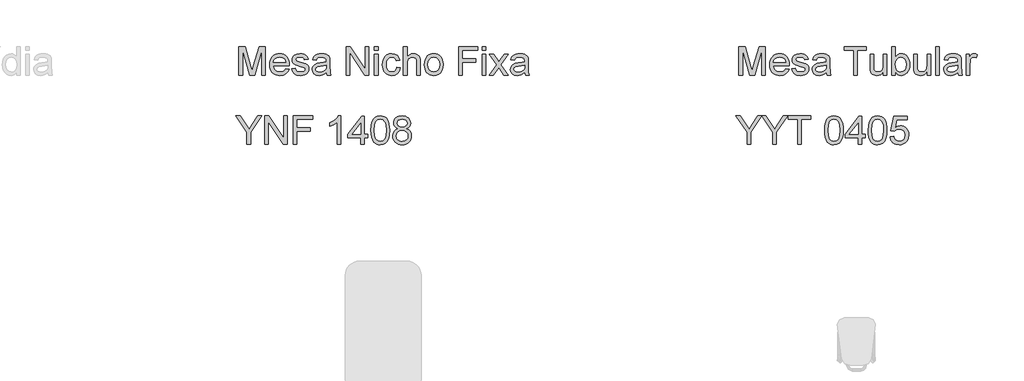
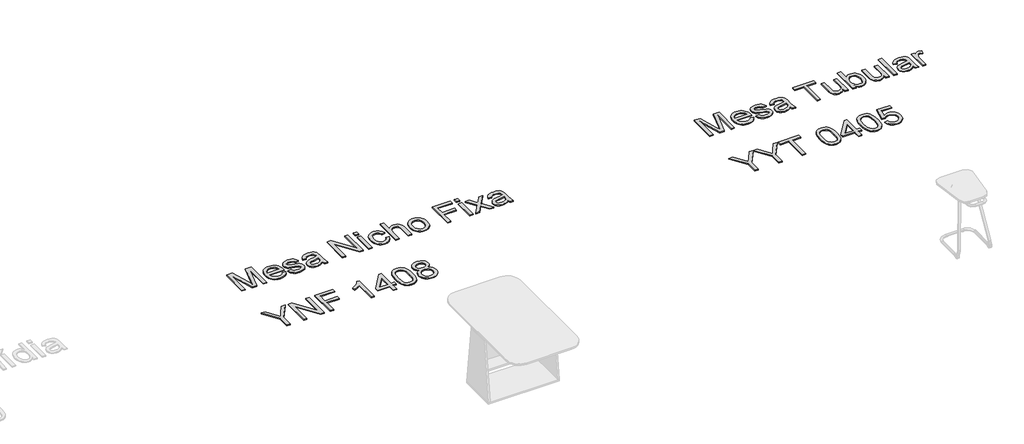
# One storey, part 24 of 26: 2 proxies.
"""IFC4 building model written with IfcOpenShell, lengths in millimetres."""

from ifc_helpers import new_model, si_unit, origin, origin_with_axes, place, context, project, spatial, polyline, outline, extrude, element, save

model = new_model("IFC4")

# Units and contexts
model_context = context("Model", 3, world=origin())
ifc_project = project(units=[si_unit("LENGTHUNIT", "METRE", prefix="MILLI")], contexts=[model_context])

# Site, building, storey
site = spatial("IfcSite", under=ifc_project)
building = spatial("IfcBuilding", under=site)
storey = spatial("IfcBuildingStorey", under=building, Name="Marelli - Linha YOUNG - Planta Baixa", Elevation=0.0)

# Proxies
placement = place(None, origin())
element("IfcBuildingElementProxy", 1, Name="300mm Arial", ObjectType="300mm Arial", at=placement, inside=storey, context=model_context, shape_type="SweptSolid", body=[
    extrude(outline(polyline([(4661.1208213, 12585.3581335), (4661.1208213, 12886.7270639), (4725.9416288, 12886.7270639), (4787.5986512, 12674.3119999), (4800.0330626, 12629.9454313), (4813.4975437, 12677.9908199), (4874.1244965, 12886.7270639), (4938.945304, 12886.7270639), (4938.945304, 12585.3581335), (4901.2741877, 12585.3581335), (4901.2741877, 12849.0559476), (4825.5640731, 12585.3581335), (4774.5020522, 12585.3581335), (4698.7919376, 12849.0559476), (4698.7919376, 12585.3581335), (4661.1208213, 12585.3581335)])), origin_with_axes(), (0.0, 0.0, 1.0), 10.0),
    extrude(outline(polyline([(5155.1127644, 12651.282587), (5192.0481167, 12646.5736975), (5178.7399855, 12618.7434245), (5157.5039974, 12597.9396977), (5128.8183988, 12584.9718574), (5093.1614364, 12580.6492439), (5069.7871341, 12582.5139458), (5048.9604147, 12588.1080514), (5030.681278, 12597.4315607), (5014.9497242, 12610.4844737), (5002.2991821, 12626.903507), (4993.2630806, 12646.3253771), (4987.8414197, 12668.750084), (4986.0341994, 12694.1776276), (4987.8598138, 12720.4673947), (4993.336657, 12743.6393619), (5002.464729, 12763.6935292), (5015.2440298, 12780.6298965), (5030.9341969, 12794.0851805), (5048.7948678, 12803.6960976), (5068.8260424, 12809.4626479), (5091.0277208, 12811.3848313), (5112.5143286, 12809.4672464), (5131.9453957, 12803.7144917), (5149.3209222, 12794.1265672), (5164.6409081, 12780.7034729), (5177.1465966, 12763.8038938), (5186.0792313, 12743.7865147), (5191.4388121, 12720.6513357), (5193.2253391, 12694.3983568), (5193.0046099, 12684.2448138), (5023.7053157, 12684.2448138), (5030.2260241, 12656.0466588), (5045.3735652, 12635.3165084), (5067.2349528, 12622.5693973), (5093.8972004, 12618.3203602), (5113.9467691, 12620.2885289), (5130.8325527, 12626.1930349), (5144.5545511, 12636.4017603), (5155.1127644, 12651.282587)]), holes=[polyline([(5023.7053157, 12721.9159301), (5155.5542228, 12721.9159301), (5150.4590571, 12741.818346), (5140.471061, 12756.0553792), (5118.5085059, 12769.2991311), (5090.880568, 12773.713715), (5065.4875133, 12770.1912449), (5044.4906484, 12759.6238346), (5029.8949303, 12743.1519182), (5023.7053157, 12721.9159301)])]), origin_with_axes(), (0.0, 0.0, 1.0), 10.0),
    extrude(outline(polyline([(5216.7697868, 12651.282587), (5254.4409031, 12655.9914765), (5260.3821973, 12639.8782452), (5271.8785097, 12628.0324449), (5289.0034165, 12620.7483814), (5311.8304943, 12618.3203602), (5334.3816606, 12620.5460463), (5350.2373746, 12627.2231045), (5359.6183655, 12636.898401), (5362.7453625, 12648.1188018), (5359.5999714, 12657.7205219), (5350.1637982, 12665.0413736), (5311.3890359, 12675.7835279), (5254.6616323, 12694.2144158), (5240.3050374, 12703.4758451), (5229.903174, 12715.7355126), (5223.5848007, 12730.2116691), (5221.4786763, 12746.1225654), (5223.1709335, 12760.7182835), (5228.247705, 12774.1919616), (5236.2491384, 12786.0101707), (5246.7153812, 12795.6394819), (5270.6644991, 12806.7863064), (5303.0749028, 12811.3848313), (5327.5942378, 12809.5362243), (5348.9129994, 12803.9904032), (5366.0563004, 12795.289994), (5378.0492535, 12783.9776227), (5385.9955046, 12769.2163576), (5390.9986997, 12750.1692673), (5353.3275834, 12745.4603778), (5348.5727086, 12757.3153751), (5339.1641266, 12766.2457105), (5325.0098668, 12771.8467139), (5306.0179588, 12773.713715), (5284.3864975, 12771.9294873), (5269.9655233, 12766.5768043), (5261.8537253, 12758.8512824), (5259.1497926, 12749.9485381), (5263.637953, 12738.9856547), (5277.6910452, 12730.6715216), (5310.1382372, 12722.6516941), (5365.430901, 12704.9197819), (5380.0358162, 12696.4401019), (5391.1090643, 12684.833425), (5398.0896252, 12670.0629629), (5400.4164788, 12652.0919274), (5397.684955, 12633.5138866), (5389.4903835, 12616.0394919), (5376.1454641, 12601.0391035), (5357.9628965, 12589.883082), (5336.0003414, 12582.9577034), (5311.3154595, 12580.6492439), (5273.3316435, 12585.1006161), (5245.6117352, 12598.4547325), (5227.1072708, 12620.5644404), (5216.7697868, 12651.282587)])), origin_with_axes(), (0.0, 0.0, 1.0), 10.0),
    extrude(outline(polyline([(5584.0631708, 12613.6114707), (5566.0645442, 12598.178821), (5547.5324886, 12588.0804602), (5528.0439399, 12582.507048), (5507.1758338, 12580.6492439), (5475.694332, 12585.1190102), (5452.4717811, 12598.5283089), (5438.1519744, 12618.8905773), (5433.3787055, 12644.2192527), (5435.1813273, 12659.8358434), (5440.5891926, 12674.0176943), (5448.9309169, 12686.1578001), (5459.5351154, 12695.6491556), (5485.9122545, 12708.0099907), (5518.5065992, 12713.6753734), (5557.0238441, 12719.6350617), (5583.8424416, 12726.6248196), (5584.0631708, 12735.0125291), (5581.4696027, 12751.8247363), (5573.6888985, 12762.8244079), (5556.2880801, 12770.9913882), (5532.0446566, 12773.713715), (5509.6038549, 12771.9018962), (5493.9320819, 12766.4664397), (5483.24511, 12756.4140642), (5475.7587114, 12740.7514882), (5438.0875951, 12745.4603778), (5444.6266975, 12766.0617695), (5454.3847675, 12782.2485773), (5468.2723128, 12794.6278064), (5487.1998414, 12803.8064622), (5510.348816, 12809.490239), (5536.900699, 12811.3848313), (5562.3673301, 12809.7109682), (5582.5548546, 12804.689379), (5597.7759721, 12797.138601), (5608.3433824, 12787.8771718), (5615.3515345, 12776.4268447), (5619.8948771, 12762.3093731), (5621.7342871, 12729.3471464), (5621.7342871, 12682.4789802), (5623.6472734, 12617.0327733), (5631.1520661, 12585.3581335), (5593.4809498, 12585.3581335), (5584.0631708, 12613.6114707)]), holes=[polyline([(5584.0631708, 12688.9537033), (5523.2890652, 12677.4022087), (5490.8786614, 12671.2953675), (5476.2001698, 12661.3625537), (5471.0498218, 12646.8680031), (5473.8549221, 12635.6659963), (5482.2702227, 12626.4873405), (5496.1117828, 12620.3621053), (5515.1956613, 12618.3203602), (5535.429171, 12620.5736375), (5553.308236, 12627.3334691), (5567.8027866, 12637.2938741), (5577.8827532, 12649.1488714), (5582.3525195, 12661.3625537), (5583.8424416, 12678.2851254), (5584.0631708, 12688.9537033)])]), origin_with_axes(), (0.0, 0.0, 1.0), 10.0),
    extrude(outline(polyline([(5871.3054326, 12585.3581335), (5871.3054326, 12849.0559476), (5772.4187523, 12849.0559476), (5772.4187523, 12886.7270639), (6007.8632292, 12886.7270639), (6007.8632292, 12849.0559476), (5908.9765489, 12849.0559476), (5908.9765489, 12585.3581335), (5871.3054326, 12585.3581335)])), origin_with_axes(), (0.0, 0.0, 1.0), 10.0),
    extrude(outline(polyline([(6186.8010317, 12585.3581335), (6186.8010317, 12623.3971318), (6173.1710037, 12604.6949308), (6157.2968956, 12591.3362159), (6139.1787074, 12583.3209869), (6118.816439, 12580.6492439), (6100.4683244, 12582.5254421), (6083.3894028, 12588.1540366), (6069.0603991, 12596.6153225), (6058.9620383, 12606.9895948), (6047.7416375, 12634.7278972), (6045.5343455, 12669.7502632), (6045.5343455, 12806.6759418), (6083.2054618, 12806.6759418), (6083.2054618, 12687.4821753), (6085.4863302, 12649.075295), (6090.976969, 12636.2638046), (6100.385551, 12626.5241287), (6113.0866769, 12620.3713024), (6128.4549472, 12618.3203602), (6144.7061344, 12620.4172876), (6159.9088578, 12626.7080697), (6172.4444368, 12636.6132924), (6180.6941905, 12649.5535416), (6185.2743214, 12667.2762567), (6186.8010317, 12691.5288773), (6186.8010317, 12806.6759418), (6224.472148, 12806.6759418), (6224.472148, 12585.3581335), (6186.8010317, 12585.3581335)])), origin_with_axes(), (0.0, 0.0, 1.0), 10.0),
    extrude(outline(polyline([(6313.9410492, 12585.3581335), (6276.2699329, 12585.3581335), (6276.2699329, 12886.7270639), (6313.9410492, 12886.7270639), (6313.9410492, 12774.9645138), (6326.3294754, 12790.8984027), (6340.3181882, 12802.2797519), (6355.9071878, 12809.1085615), (6373.096474, 12811.3848313), (6392.5022493, 12809.3338892), (6410.8411667, 12803.1810628), (6427.0647627, 12793.3126283), (6440.1245735, 12780.1148617), (6450.3608901, 12763.7165218), (6458.1140031, 12744.2463672), (6462.9976366, 12722.5137383), (6464.6255144, 12699.3279756), (6462.940155, 12672.5737575), (6457.8840769, 12649.0385068), (6449.4572799, 12628.7222236), (6437.6597642, 12611.6249079), (6423.4986066, 12598.0730549), (6407.9808842, 12588.3931599), (6391.1065969, 12582.5852229), (6372.8757448, 12580.6492439), (6355.12084, 12583.146243), (6339.3800892, 12590.6372401), (6325.6534922, 12603.1222353), (6313.9410492, 12620.6012286), (6313.9410492, 12585.3581335)]), holes=[polyline([(6313.9410492, 12697.562142), (6316.5162232, 12666.1450196), (6324.2417451, 12644.8814403), (6333.3698171, 12633.2609678), (6343.9786141, 12624.9606302), (6356.0681362, 12619.9804277), (6369.6383833, 12618.3203602), (6391.3802092, 12623.2131908), (6409.9582499, 12637.8916824), (6422.7053611, 12662.2638646), (6426.9543981, 12696.2377668), (6422.880105, 12730.7083098), (6410.6572257, 12754.8045804), (6392.6585991, 12768.9864314), (6371.257064, 12773.713715), (6349.5152381, 12768.8208845), (6330.9371974, 12754.1423929), (6318.1900862, 12730.2116691), (6313.9410492, 12697.562142)])]), origin_with_axes(), (0.0, 0.0, 1.0), 10.0),
    extrude(outline(polyline([(6648.2722064, 12585.3581335), (6648.2722064, 12623.3971318), (6634.6421785, 12604.6949308), (6618.7680704, 12591.3362159), (6600.6498821, 12583.3209869), (6580.2876137, 12580.6492439), (6561.9394992, 12582.5254421), (6544.8605776, 12588.1540366), (6530.5315739, 12596.6153225), (6520.4332131, 12606.9895948), (6509.2128122, 12634.7278972), (6507.0055203, 12669.7502632), (6507.0055203, 12806.6759418), (6544.6766366, 12806.6759418), (6544.6766366, 12687.4821753), (6546.9575049, 12649.075295), (6552.4481437, 12636.2638046), (6561.8567257, 12626.5241287), (6574.5578516, 12620.3713024), (6589.926122, 12618.3203602), (6606.1773091, 12620.4172876), (6621.3800326, 12626.7080697), (6633.9156116, 12636.6132924), (6642.1653653, 12649.5535416), (6646.7454961, 12667.2762567), (6648.2722064, 12691.5288773), (6648.2722064, 12806.6759418), (6685.9433227, 12806.6759418), (6685.9433227, 12585.3581335), (6648.2722064, 12585.3581335)])), origin_with_axes(), (0.0, 0.0, 1.0), 10.0),
    extrude(outline(polyline([(6737.7411076, 12585.3581335), (6737.7411076, 12886.7270639), (6775.4122239, 12886.7270639), (6775.4122239, 12585.3581335), (6737.7411076, 12585.3581335)])), origin_with_axes(), (0.0, 0.0, 1.0), 10.0),
    extrude(outline(polyline([(6973.1855846, 12613.6114707), (6955.1869579, 12598.178821), (6936.6549024, 12588.0804602), (6917.1663537, 12582.507048), (6896.2982476, 12580.6492439), (6864.8167458, 12585.1190102), (6841.5941949, 12598.5283089), (6827.2743882, 12618.8905773), (6822.5011193, 12644.2192527), (6824.3037411, 12659.8358434), (6829.7116064, 12674.0176943), (6838.0533307, 12686.1578001), (6848.6575292, 12695.6491556), (6875.0346682, 12708.0099907), (6907.629013, 12713.6753734), (6946.1462579, 12719.6350617), (6972.9648554, 12726.6248196), (6973.1855846, 12735.0125291), (6970.5920165, 12751.8247363), (6962.8113123, 12762.8244079), (6945.4104939, 12770.9913882), (6921.1670704, 12773.713715), (6898.7262687, 12771.9018962), (6883.0544957, 12766.4664397), (6872.3675238, 12756.4140642), (6864.8811252, 12740.7514882), (6827.2100089, 12745.4603778), (6833.7491113, 12766.0617695), (6843.5071813, 12782.2485773), (6857.3947266, 12794.6278064), (6876.3222552, 12803.8064622), (6899.4712298, 12809.490239), (6926.0231128, 12811.3848313), (6951.4897439, 12809.7109682), (6971.6772684, 12804.689379), (6986.8983859, 12797.138601), (6997.4657962, 12787.8771718), (7004.4739482, 12776.4268447), (7009.0172909, 12762.3093731), (7010.8567009, 12729.3471464), (7010.8567009, 12682.4789802), (7012.7696872, 12617.0327733), (7020.2744799, 12585.3581335), (6982.6033636, 12585.3581335), (6973.1855846, 12613.6114707)]), holes=[polyline([(6973.1855846, 12688.9537033), (6912.4114789, 12677.4022087), (6880.0010752, 12671.2953675), (6865.3225836, 12661.3625537), (6860.1722356, 12646.8680031), (6862.9773358, 12635.6659963), (6871.3926365, 12626.4873405), (6885.2341966, 12620.3621053), (6904.3180751, 12618.3203602), (6924.5515848, 12620.5736375), (6942.4306498, 12627.3334691), (6956.9252004, 12637.2938741), (6967.005167, 12649.1488714), (6971.4749333, 12661.3625537), (6972.9648554, 12678.2851254), (6973.1855846, 12688.9537033)])]), origin_with_axes(), (0.0, 0.0, 1.0), 10.0),
    extrude(outline(polyline([(7062.6544858, 12585.3581335), (7062.6544858, 12806.6759418), (7095.6167125, 12806.6759418), (7095.6167125, 12773.9344442), (7107.7936066, 12792.9171551), (7119.0140074, 12804.1007678), (7130.2711965, 12809.5638154), (7142.5584551, 12811.3848313), (7161.3204369, 12808.4785635), (7180.3767242, 12799.7597603), (7167.79516, 12765.9881931), (7154.5514082, 12771.7823345), (7141.3076563, 12773.713715), (7130.0596643, 12771.8559109), (7120.0072888, 12766.2824987), (7111.8862938, 12757.4165426), (7106.4324432, 12745.681107), (7101.8523124, 12724.6382568), (7100.3256021, 12701.6824203), (7100.3256021, 12585.3581335), (7062.6544858, 12585.3581335)])), origin_with_axes(), (0.0, 0.0, 1.0), 10.0),
    extrude(outline(polyline([(5018.9964262, 11853.5092264), (5018.9964262, 11981.1642787), (4901.2741877, 12154.8781568), (4945.7143327, 12154.8781568), (5008.5485775, 12062.0983177), (5040.7014639, 12014.7886931), (5072.9279267, 12065.482832), (5129.9496359, 12154.8781568), (5174.3897809, 12154.8781568), (5056.6675425, 11981.1642787), (5056.6675425, 11853.5092264), (5018.9964262, 11853.5092264)])), origin_with_axes(), (0.0, 0.0, 1.0), 10.0),
    extrude(outline(polyline([(4783.5519493, 11981.1642787), (4783.5519493, 11853.5092264), (4745.880833, 11853.5092264), (4745.880833, 11981.1642787), (4628.1585945, 12154.8781568), (4672.5987395, 12154.8781568), (4735.4329843, 12062.0983177), (4767.5858707, 12014.7886931), (4799.8123334, 12065.482832), (4856.8340427, 12154.8781568), (4901.2741877, 12154.8781568), (4783.5519493, 11981.1642787)])), origin_with_axes(), (0.0, 0.0, 1.0), 10.0),
    extrude(outline(polyline([(5282.6942403, 11853.5092264), (5282.6942403, 12117.2070405), (5183.80756, 12117.2070405), (5183.80756, 12154.8781568), (5419.2520369, 12154.8781568), (5419.2520369, 12117.2070405), (5320.3653566, 12117.2070405), (5320.3653566, 11853.5092264), (5282.6942403, 11853.5092264)])), origin_with_axes(), (0.0, 0.0, 1.0), 10.0),
    extrude(outline(polyline([(5565.2276126, 12001.7656705), (5567.9959246, 12050.0041971), (5576.3008607, 12088.4754567), (5590.0596473, 12117.7680606), (5609.189511, 12138.4706199), (5633.8284077, 12150.7762726), (5664.1142929, 12154.8781568), (5687.3276468, 12152.4501357), (5708.1129795, 12145.1660722), (5725.4954038, 12133.3110749), (5738.5000323, 12117.1702523), (5748.3224816, 12096.8815603), (5756.1583681, 12072.5829545), (5761.2903219, 12041.7268522), (5763.0009732, 12001.7656705), (5760.2602524, 11953.8030553), (5752.0380898, 11915.4237662), (5738.3620766, 11886.1035712), (5719.259804, 11865.3182384), (5694.5657251, 11852.9298123), (5664.1142929, 11848.8003369), (5643.3657484, 11850.5937616), (5624.9716486, 11855.9740358), (5608.9319936, 11864.9411594), (5595.2467834, 11877.4951325), (5582.1133962, 11900.1888531), (5572.7324053, 11928.4651829), (5567.1038108, 11962.324122), (5565.2276126, 12001.7656705)]), holes=[polyline([(5602.8987289, 12001.8392469), (5607.3133129, 11942.5826545), (5612.8315428, 11922.3146558), (5620.5570647, 11908.2868555), (5640.2755396, 11891.9253037), (5664.1142929, 11886.4714532), (5687.9530462, 11891.9436978), (5707.6715211, 11908.3604319), (5715.397043, 11922.4112248), (5720.915273, 11942.674625), (5725.3298569, 12001.8392469), (5721.0624258, 12059.762267), (5715.7281368, 12079.9635871), (5708.2601323, 12094.3247804), (5688.5784456, 12111.4864755), (5663.6728345, 12117.2070405), (5640.0915986, 12112.1670572), (5621.1456759, 12097.0471072), (5613.1626366, 12081.4121224), (5607.4604657, 12060.3324841), (5602.8987289, 12001.8392469)])]), origin_with_axes(), (0.0, 0.0, 1.0), 10.0),
    extrude(outline(polyline([(5918.394328, 11853.5092264), (5918.394328, 11924.1425695), (5781.8365314, 11924.1425695), (5781.8365314, 11961.8136858), (5927.8121071, 12150.1692673), (5956.0654443, 12150.1692673), (5956.0654443, 11961.8136858), (5993.7365606, 11961.8136858), (5993.7365606, 11924.1425695), (5956.0654443, 11924.1425695), (5956.0654443, 11853.5092264), (5918.394328, 11853.5092264)]), holes=[polyline([(5918.394328, 11961.8136858), (5918.394328, 12078.2115491), (5828.1896628, 11961.8136858), (5918.394328, 11961.8136858)])]), origin_with_axes(), (0.0, 0.0, 1.0), 10.0),
    extrude(outline(polyline([(6026.6987874, 12001.7656705), (6029.4670994, 12050.0041971), (6037.7720354, 12088.4754567), (6051.530822, 12117.7680606), (6070.6606858, 12138.4706199), (6095.2995824, 12150.7762726), (6125.5854677, 12154.8781568), (6148.7988216, 12152.4501357), (6169.5841543, 12145.1660722), (6186.9665786, 12133.3110749), (6199.9712071, 12117.1702523), (6209.7936564, 12096.8815603), (6217.6295429, 12072.5829545), (6222.7614967, 12041.7268522), (6224.472148, 12001.7656705), (6221.7314271, 11953.8030553), (6213.5092645, 11915.4237662), (6199.8332513, 11886.1035712), (6180.7309787, 11865.3182384), (6156.0368998, 11852.9298123), (6125.5854677, 11848.8003369), (6104.8369231, 11850.5937616), (6086.4428234, 11855.9740358), (6070.4031684, 11864.9411594), (6056.7179582, 11877.4951325), (6043.5845709, 11900.1888531), (6034.2035801, 11928.4651829), (6028.5749855, 11962.324122), (6026.6987874, 12001.7656705)]), holes=[polyline([(6064.3699037, 12001.8392469), (6068.7844876, 11942.5826545), (6074.3027175, 11922.3146558), (6082.0282394, 11908.2868555), (6101.7467144, 11891.9253037), (6125.5854677, 11886.4714532), (6149.424221, 11891.9436978), (6169.1426959, 11908.3604319), (6176.8682178, 11922.4112248), (6182.3864477, 11942.674625), (6186.8010317, 12001.8392469), (6182.5336005, 12059.762267), (6177.1993116, 12079.9635871), (6169.7313071, 12094.3247804), (6150.0496203, 12111.4864755), (6125.1440093, 12117.2070405), (6101.5627734, 12112.1670572), (6082.6168506, 12097.0471072), (6074.6338113, 12081.4121224), (6068.9316404, 12060.3324841), (6064.3699037, 12001.8392469)])]), origin_with_axes(), (0.0, 0.0, 1.0), 10.0),
    extrude(outline(polyline([(6257.4343747, 11933.5603485), (6295.105491, 11938.2692381), (6302.0216726, 11915.6536924), (6314.088202, 11899.4576876), (6331.2498971, 11889.7180118), (6353.4515755, 11886.4714532), (6380.4541139, 11890.9872047), (6400.6876237, 11904.5344591), (6413.3243702, 11925.5497181), (6417.536619, 11952.4694831), (6413.5910846, 11977.8165526), (6401.7544814, 11997.2039337), (6381.934839, 12009.5095865), (6354.0401867, 12013.6114707), (6335.7656486, 12011.9743958), (6320.9675953, 12007.0631712), (6299.8143806, 11990.067023), (6262.1432643, 11994.7759125), (6295.105491, 12150.1692673), (6441.0810667, 12150.1692673), (6441.0810667, 12112.498151), (6325.5661202, 12112.498151), (6309.4528889, 12029.5039729), (6336.3634568, 12045.8379335), (6364.5616117, 12051.282587), (6382.907427, 12049.5949284), (6399.7587216, 12044.5319524), (6415.1154957, 12036.0936591), (6428.9777491, 12024.2800486), (6440.4533681, 12009.8130891), (6448.6502388, 11993.4147492), (6453.5683612, 11975.0850288), (6455.2077353, 11954.8239279), (6449.3032293, 11917.1528116), (6441.9225968, 11900.3589985), (6431.5897113, 11884.9263488), (6415.9363324, 11869.1212186), (6397.6709913, 11857.8318398), (6376.7936881, 11851.0582126), (6353.3044227, 11848.8003369), (6316.304691, 11854.6036753), (6300.6260202, 11861.8578484), (6286.8281462, 11872.0136908), (6275.3479286, 11884.5653646), (6266.6222276, 11899.0070321), (6257.4343747, 11933.5603485)])), origin_with_axes(), (0.0, 0.0, 1.0), 10.0),
])
element("IfcBuildingElementProxy", 2, Name="300mm Arial", ObjectType="300mm Arial", at=placement, inside=storey, context=model_context, shape_type="SweptSolid", body=[
    extrude(outline(polyline([(-621.412551, 12585.3581335), (-621.412551, 12886.7270639), (-556.5917435, 12886.7270639), (-494.9347211, 12674.3119999), (-482.5003097, 12629.9454313), (-469.0358286, 12677.9908199), (-408.4088758, 12886.7270639), (-343.5880683, 12886.7270639), (-343.5880683, 12585.3581335), (-381.2591846, 12585.3581335), (-381.2591846, 12849.0559476), (-456.9692992, 12585.3581335), (-508.0313201, 12585.3581335), (-583.7414347, 12849.0559476), (-583.7414347, 12585.3581335), (-621.412551, 12585.3581335)])), origin_with_axes(), (0.0, 0.0, 1.0), 10.0),
    extrude(outline(polyline([(-127.4206079, 12651.282587), (-90.4852556, 12646.5736975), (-103.7933868, 12618.7434245), (-125.0293749, 12597.9396977), (-153.7149735, 12584.9718574), (-189.3719359, 12580.6492439), (-212.7462382, 12582.5139458), (-233.5729576, 12588.1080514), (-251.8520943, 12597.4315607), (-267.5836481, 12610.4844737), (-280.2341902, 12626.903507), (-289.2702917, 12646.3253771), (-294.6919526, 12668.750084), (-296.4991729, 12694.1776276), (-294.6735585, 12720.4673947), (-289.1967153, 12743.6393619), (-280.0686433, 12763.6935292), (-267.2893425, 12780.6298965), (-251.5991754, 12794.0851805), (-233.7385045, 12803.6960976), (-213.7073299, 12809.4626479), (-191.5056515, 12811.3848313), (-170.0190437, 12809.4672464), (-150.5879766, 12803.7144917), (-133.2124501, 12794.1265672), (-117.8924642, 12780.7034729), (-105.3867757, 12763.8038938), (-96.454141, 12743.7865147), (-91.0945601, 12720.6513357), (-89.3080332, 12694.3983568), (-89.5287624, 12684.2448138), (-258.8280566, 12684.2448138), (-252.3073482, 12656.0466588), (-237.1598071, 12635.3165084), (-215.2984195, 12622.5693973), (-188.6361719, 12618.3203602), (-168.5866032, 12620.2885289), (-151.7008196, 12626.1930349), (-137.9788212, 12636.4017603), (-127.4206079, 12651.282587)]), holes=[polyline([(-258.8280566, 12721.9159301), (-126.9791495, 12721.9159301), (-132.0743151, 12741.818346), (-142.0623113, 12756.0553792), (-164.0248664, 12769.2991311), (-191.6528043, 12773.713715), (-217.045859, 12770.1912449), (-238.0427239, 12759.6238346), (-252.638442, 12743.1519182), (-258.8280566, 12721.9159301)])]), origin_with_axes(), (0.0, 0.0, 1.0), 10.0),
    extrude(outline(polyline([(-65.7635855, 12651.282587), (-28.0924692, 12655.9914765), (-22.151175, 12639.8782452), (-10.6548626, 12628.0324449), (6.4700442, 12620.7483814), (29.297122, 12618.3203602), (51.8482883, 12620.5460463), (67.7040023, 12627.2231045), (77.0849932, 12636.898401), (80.2119902, 12648.1188018), (77.0665991, 12657.7205219), (67.6304259, 12665.0413736), (28.8556636, 12675.7835279), (-27.87174, 12694.2144158), (-42.2283349, 12703.4758451), (-52.6301983, 12715.7355126), (-58.9485716, 12730.2116691), (-61.054696, 12746.1225654), (-59.3624388, 12760.7182835), (-54.2856673, 12774.1919616), (-46.2842339, 12786.0101707), (-35.8179911, 12795.6394819), (-11.8688732, 12806.7863064), (20.5415306, 12811.3848313), (45.0608655, 12809.5362243), (66.3796272, 12803.9904032), (83.5229281, 12795.289994), (95.5158812, 12783.9776227), (103.4621323, 12769.2163576), (108.4653274, 12750.1692673), (70.7942111, 12745.4603778), (66.0393363, 12757.3153751), (56.6307543, 12766.2457105), (42.4764945, 12771.8467139), (23.4845865, 12773.713715), (1.8531252, 12771.9294873), (-12.567849, 12766.5768043), (-20.679647, 12758.8512824), (-23.3835797, 12749.9485381), (-18.8954193, 12738.9856547), (-4.8423271, 12730.6715216), (27.6048649, 12722.6516941), (82.8975287, 12704.9197819), (97.5024439, 12696.4401019), (108.575692, 12684.833425), (115.5562529, 12670.0629629), (117.8831065, 12652.0919274), (115.1515827, 12633.5138866), (106.9570112, 12616.0394919), (93.6120918, 12601.0391035), (75.4295242, 12589.883082), (53.4669691, 12582.9577034), (28.7820872, 12580.6492439), (-9.2017288, 12585.1006161), (-36.9216371, 12598.4547325), (-55.4261015, 12620.5644404), (-65.7635855, 12651.282587)])), origin_with_axes(), (0.0, 0.0, 1.0), 10.0),
    extrude(outline(polyline([(301.5297985, 12613.6114707), (283.5311719, 12598.178821), (264.9991163, 12588.0804602), (245.5105677, 12582.507048), (224.6424615, 12580.6492439), (193.1609597, 12585.1190102), (169.9384088, 12598.5283089), (155.6186021, 12618.8905773), (150.8453332, 12644.2192527), (152.647955, 12659.8358434), (158.0558203, 12674.0176943), (166.3975446, 12686.1578001), (177.0017431, 12695.6491556), (203.3788822, 12708.0099907), (235.9732269, 12713.6753734), (274.4904718, 12719.6350617), (301.3090693, 12726.6248196), (301.5297985, 12735.0125291), (298.9362304, 12751.8247363), (291.1555262, 12762.8244079), (273.7547078, 12770.9913882), (249.5112844, 12773.713715), (227.0704826, 12771.9018962), (211.3987096, 12766.4664397), (200.7117377, 12756.4140642), (193.2253391, 12740.7514882), (155.5542228, 12745.4603778), (162.0933252, 12766.0617695), (171.8513952, 12782.2485773), (185.7389405, 12794.6278064), (204.6664691, 12803.8064622), (227.8154437, 12809.490239), (254.3673267, 12811.3848313), (279.8339578, 12809.7109682), (300.0214823, 12804.689379), (315.2425998, 12797.138601), (325.8100101, 12787.8771718), (332.8181622, 12776.4268447), (337.3615048, 12762.3093731), (339.2009148, 12729.3471464), (339.2009148, 12682.4789802), (341.1139011, 12617.0327733), (348.6186939, 12585.3581335), (310.9475775, 12585.3581335), (301.5297985, 12613.6114707)]), holes=[polyline([(301.5297985, 12688.9537033), (240.7556929, 12677.4022087), (208.3452891, 12671.2953675), (193.6667975, 12661.3625537), (188.5164495, 12646.8680031), (191.3215498, 12635.6659963), (199.7368504, 12626.4873405), (213.5784105, 12620.3621053), (232.662289, 12618.3203602), (252.8957987, 12620.5736375), (270.7748637, 12627.3334691), (285.2694143, 12637.2938741), (295.3493809, 12649.1488714), (299.8191472, 12661.3625537), (301.3090693, 12678.2851254), (301.5297985, 12688.9537033)])]), origin_with_axes(), (0.0, 0.0, 1.0), 10.0),
    extrude(outline(polyline([(513.4298277, 12585.3581335), (513.4298277, 12886.7270639), (553.7496944, 12886.7270639), (711.2031883, 12647.971649), (711.2031883, 12886.7270639), (748.8743046, 12886.7270639), (748.8743046, 12585.3581335), (708.5544379, 12585.3581335), (551.100944, 12824.1871247), (551.100944, 12585.3581335), (513.4298277, 12585.3581335)])), origin_with_axes(), (0.0, 0.0, 1.0), 10.0),
    extrude(outline(polyline([(810.0898686, 12849.0559476), (810.0898686, 12886.7270639), (847.7609849, 12886.7270639), (847.7609849, 12849.0559476), (810.0898686, 12849.0559476)])), origin_with_axes(), (0.0, 0.0, 1.0), 10.0),
    extrude(outline(polyline([(810.0898686, 12585.3581335), (810.0898686, 12806.6759418), (847.7609849, 12806.6759418), (847.7609849, 12585.3581335), (810.0898686, 12585.3581335)])), origin_with_axes(), (0.0, 0.0, 1.0), 10.0),
    extrude(outline(polyline([(1045.5343455, 12665.4092556), (1083.2054618, 12660.7003661), (1072.7024309, 12627.1955134), (1052.9655618, 12601.8760351), (1025.8526588, 12585.9559417), (993.2215258, 12580.6492439), (972.093603, 12582.5001502), (953.1499795, 12588.0528691), (936.3906553, 12597.3074005), (921.8156305, 12610.2637445), (910.0181148, 12626.6781793), (901.5913179, 12646.306983), (896.5352397, 12669.1501557), (894.8498803, 12695.2076972), (897.7285569, 12728.730944), (906.3645867, 12757.7844246), (920.8959255, 12781.2460988), (941.4605291, 12797.9939267), (966.0626375, 12808.0371051), (992.706491, 12811.3848313), (1024.5374806, 12806.7863064), (1049.9857177, 12792.9907315), (1068.2418617, 12770.7338708), (1078.4965723, 12740.7514882), (1040.825456, 12736.0425987), (1033.9920479, 12752.4777268), (1023.3510612, 12764.2591477), (1009.491107, 12771.3500732), (993.0007966, 12773.713715), (968.6562056, 12769.0600078), (949.3332038, 12755.098886), (936.7240484, 12731.0761918), (932.5209966, 12696.2377668), (936.6320779, 12660.9302923), (948.9653218, 12636.8248246), (967.9388357, 12622.9464763), (991.970727, 12618.3203602), (1011.4776698, 12621.2082339), (1027.4713396, 12629.8718549), (1039.1056076, 12644.5319524), (1045.5343455, 12665.4092556)])), origin_with_axes(), (0.0, 0.0, 1.0), 10.0),
    extrude(outline(polyline([(1116.1676886, 12585.3581335), (1116.1676886, 12886.7270639), (1153.8388049, 12886.7270639), (1153.8388049, 12775.921007), (1167.6757664, 12791.4364301), (1183.2141822, 12802.5188752), (1200.4540522, 12809.1683423), (1219.3953764, 12811.3848313), (1242.1488778, 12808.9660072), (1261.7018059, 12801.7095348), (1277.0976674, 12790.1856313), (1287.3799691, 12774.9645138), (1293.1741106, 12754.0504224), (1295.105491, 12725.4475972), (1295.105491, 12585.3581335), (1257.4343747, 12585.3581335), (1257.4343747, 12721.5480481), (1254.4361365, 12745.129284), (1245.4414217, 12761.2793036), (1230.9468711, 12770.6051121), (1211.4491253, 12773.713715), (1195.529032, 12771.6167876), (1180.5838259, 12765.3260055), (1168.2045968, 12755.4483739), (1159.9824342, 12742.5908982), (1155.3747122, 12725.5027795), (1153.8388049, 12702.9332191), (1153.8388049, 12585.3581335), (1116.1676886, 12585.3581335)])), origin_with_axes(), (0.0, 0.0, 1.0), 10.0),
    extrude(outline(polyline([(1337.4854969, 12696.0170376), (1339.5226434, 12724.6796436), (1345.6340831, 12749.378321), (1355.8198158, 12770.11307), (1370.0798417, 12786.8838904), (1384.4364365, 12797.6030521), (1400.2829535, 12805.2595961), (1417.6193925, 12809.8535225), (1436.4457536, 12811.3848313), (1457.2287871, 12809.5201294), (1476.0206592, 12803.9260239), (1492.8213701, 12794.6025145), (1507.6309197, 12781.5496015), (1519.7181425, 12765.2087431), (1528.351873, 12746.0213978), (1533.5321114, 12723.9875656), (1535.2588575, 12699.1072464), (1532.2054369, 12661.049854), (1523.0451753, 12632.0791469), (1508.0447869, 12610.3833062), (1487.4709863, 12594.1505132), (1463.0344248, 12584.0245612), (1436.4457536, 12580.6492439), (1415.3592175, 12582.507048), (1396.3926014, 12588.0804602), (1379.5459052, 12597.3694806), (1364.8191291, 12610.3741091), (1352.860665, 12626.8736166), (1344.3189049, 12646.6472739), (1339.1938489, 12669.6950809), (1337.4854969, 12696.0170376)]), holes=[polyline([(1375.1566132, 12696.090614), (1379.5160148, 12661.9971501), (1392.5942198, 12637.7077414), (1412.2759065, 12623.1672055), (1436.4457536, 12618.3203602), (1460.5052361, 12623.1947967), (1480.1501346, 12637.818106), (1493.2283395, 12662.4294115), (1497.5877412, 12697.2678364), (1493.2007484, 12730.3680189), (1480.03977, 12754.3263339), (1460.3672803, 12768.8668697), (1436.4457536, 12773.713715), (1412.2759065, 12768.8852638), (1392.5942198, 12754.3999103), (1379.5160148, 12730.1656838), (1375.1566132, 12696.090614)])]), origin_with_axes(), (0.0, 0.0, 1.0), 10.0),
    extrude(outline(polyline([(1700.0699913, 12585.3581335), (1700.0699913, 12886.7270639), (1902.5522415, 12886.7270639), (1902.5522415, 12849.0559476), (1737.7411076, 12849.0559476), (1737.7411076, 12759.5870464), (1879.0077938, 12759.5870464), (1879.0077938, 12721.9159301), (1737.7411076, 12721.9159301), (1737.7411076, 12585.3581335), (1700.0699913, 12585.3581335)])), origin_with_axes(), (0.0, 0.0, 1.0), 10.0),
    extrude(outline(polyline([(1949.6411369, 12849.0559476), (1949.6411369, 12886.7270639), (1987.3122532, 12886.7270639), (1987.3122532, 12849.0559476), (1949.6411369, 12849.0559476)])), origin_with_axes(), (0.0, 0.0, 1.0), 10.0),
    extrude(outline(polyline([(1949.6411369, 12585.3581335), (1949.6411369, 12806.6759418), (1987.3122532, 12806.6759418), (1987.3122532, 12585.3581335), (1949.6411369, 12585.3581335)])), origin_with_axes(), (0.0, 0.0, 1.0), 10.0),
    extrude(outline(polyline([(2020.2744799, 12585.3581335), (2100.7670605, 12696.6056488), (2024.9833695, 12806.6759418), (2070.3064313, 12806.6759418), (2106.8739016, 12753.7009345), (2123.9436262, 12728.6849588), (2138.7324824, 12749.1391977), (2180.3767242, 12806.6759418), (2225.699786, 12806.6759418), (2146.0901223, 12696.6056488), (2222.7567301, 12585.3581335), (2177.4336683, 12585.3581335), (2131.3012661, 12652.2390802), (2122.8399802, 12664.4527624), (2065.5975417, 12585.3581335), (2020.2744799, 12585.3581335)])), origin_with_axes(), (0.0, 0.0, 1.0), 10.0),
    extrude(outline(polyline([(2396.985643, 12613.6114707), (2378.9870164, 12598.178821), (2360.4549609, 12588.0804602), (2340.9664122, 12582.507048), (2320.098306, 12580.6492439), (2288.6168043, 12585.1190102), (2265.3942533, 12598.5283089), (2251.0744467, 12618.8905773), (2246.3011778, 12644.2192527), (2248.1037995, 12659.8358434), (2253.5116649, 12674.0176943), (2261.8533891, 12686.1578001), (2272.4575876, 12695.6491556), (2298.8347267, 12708.0099907), (2331.4290715, 12713.6753734), (2369.9463163, 12719.6350617), (2396.7649138, 12726.6248196), (2396.985643, 12735.0125291), (2394.3920749, 12751.8247363), (2386.6113707, 12762.8244079), (2369.2105524, 12770.9913882), (2344.9671289, 12773.713715), (2322.5263272, 12771.9018962), (2306.8545542, 12766.4664397), (2296.1675822, 12756.4140642), (2288.6811836, 12740.7514882), (2251.0100673, 12745.4603778), (2257.5491698, 12766.0617695), (2267.3072397, 12782.2485773), (2281.194785, 12794.6278064), (2300.1223137, 12803.8064622), (2323.2712882, 12809.490239), (2349.8231712, 12811.3848313), (2375.2898023, 12809.7109682), (2395.4773268, 12804.689379), (2410.6984444, 12797.138601), (2421.2658547, 12787.8771718), (2428.2740067, 12776.4268447), (2432.8173493, 12762.3093731), (2434.6567593, 12729.3471464), (2434.6567593, 12682.4789802), (2436.5697457, 12617.0327733), (2444.0745384, 12585.3581335), (2406.4034221, 12585.3581335), (2396.985643, 12613.6114707)]), holes=[polyline([(2396.985643, 12688.9537033), (2336.2115374, 12677.4022087), (2303.8011336, 12671.2953675), (2289.122642, 12661.3625537), (2283.9722941, 12646.8680031), (2286.7773943, 12635.6659963), (2295.1926949, 12626.4873405), (2309.034255, 12620.3621053), (2328.1181335, 12618.3203602), (2348.3516432, 12620.5736375), (2366.2307082, 12627.3334691), (2380.7252588, 12637.2938741), (2390.8052255, 12649.1488714), (2395.2749917, 12661.3625537), (2396.7649138, 12678.2851254), (2396.985643, 12688.9537033)])]), origin_with_axes(), (0.0, 0.0, 1.0), 10.0),
    extrude(outline(polyline([(-536.6525393, 11853.5092264), (-536.6525393, 11981.1642787), (-654.3747778, 12154.8781568), (-609.9346328, 12154.8781568), (-547.100388, 12062.0983177), (-514.9475016, 12014.7886931), (-482.7210388, 12065.482832), (-425.6993296, 12154.8781568), (-381.2591846, 12154.8781568), (-498.981423, 11981.1642787), (-498.981423, 11853.5092264), (-536.6525393, 11853.5092264)])), origin_with_axes(), (0.0, 0.0, 1.0), 10.0),
    extrude(outline(polyline([(-348.2969578, 11853.5092264), (-348.2969578, 12154.8781568), (-307.9770911, 12154.8781568), (-150.5235972, 11916.122742), (-150.5235972, 12154.8781568), (-112.8524809, 12154.8781568), (-112.8524809, 11853.5092264), (-153.1723476, 11853.5092264), (-310.6258415, 12092.3382177), (-310.6258415, 11853.5092264), (-348.2969578, 11853.5092264)])), origin_with_axes(), (0.0, 0.0, 1.0), 10.0),
    extrude(outline(polyline([(-46.9280274, 11853.5092264), (-46.9280274, 12154.8781568), (155.5542228, 12154.8781568), (155.5542228, 12117.2070405), (-9.2569111, 12117.2070405), (-9.2569111, 12027.7381393), (132.0097751, 12027.7381393), (132.0097751, 11990.067023), (-9.2569111, 11990.067023), (-9.2569111, 11853.5092264), (-46.9280274, 11853.5092264)])), origin_with_axes(), (0.0, 0.0, 1.0), 10.0),
    extrude(outline(polyline([(452.2142637, 11853.5092264), (414.5431474, 11853.5092264), (414.5431474, 12088.3650921), (378.8585939, 12062.9444463), (339.2009148, 12043.9249471), (339.2009148, 12079.5359242), (368.7878242, 12095.6307615), (394.4200023, 12114.7790194), (414.6259208, 12135.1412878), (427.934052, 12154.8781568), (452.2142637, 12154.8781568), (452.2142637, 11853.5092264)])), origin_with_axes(), (0.0, 0.0, 1.0), 10.0),
    extrude(outline(polyline([(664.1142929, 11853.5092264), (664.1142929, 11924.1425695), (527.5564963, 11924.1425695), (527.5564963, 11961.8136858), (673.532072, 12150.1692673), (701.7854092, 12150.1692673), (701.7854092, 11961.8136858), (739.4565255, 11961.8136858), (739.4565255, 11924.1425695), (701.7854092, 11924.1425695), (701.7854092, 11853.5092264), (664.1142929, 11853.5092264)]), holes=[polyline([(664.1142929, 11961.8136858), (664.1142929, 12078.2115491), (573.9096277, 11961.8136858), (664.1142929, 11961.8136858)])]), origin_with_axes(), (0.0, 0.0, 1.0), 10.0),
    extrude(outline(polyline([(772.4187523, 12001.7656705), (775.1870643, 12050.0041971), (783.4920003, 12088.4754567), (797.250787, 12117.7680606), (816.3806507, 12138.4706199), (841.0195473, 12150.7762726), (871.3054326, 12154.8781568), (894.5187865, 12152.4501357), (915.3041192, 12145.1660722), (932.6865435, 12133.3110749), (945.691172, 12117.1702523), (955.5136213, 12096.8815603), (963.3495078, 12072.5829545), (968.4814616, 12041.7268522), (970.1921129, 12001.7656705), (967.451392, 11953.8030553), (959.2292294, 11915.4237662), (945.5532163, 11886.1035712), (926.4509437, 11865.3182384), (901.7568647, 11852.9298123), (871.3054326, 11848.8003369), (850.5568881, 11850.5937616), (832.1627883, 11855.9740358), (816.1231333, 11864.9411594), (802.4379231, 11877.4951325), (789.3045359, 11900.1888531), (779.923545, 11928.4651829), (774.2949505, 11962.324122), (772.4187523, 12001.7656705)]), holes=[polyline([(810.0898686, 12001.8392469), (814.5044525, 11942.5826545), (820.0226825, 11922.3146558), (827.7482044, 11908.2868555), (847.4666793, 11891.9253037), (871.3054326, 11886.4714532), (895.1441859, 11891.9436978), (914.8626608, 11908.3604319), (922.5881827, 11922.4112248), (928.1064127, 11942.674625), (932.5209966, 12001.8392469), (928.2535655, 12059.762267), (922.9192765, 12079.9635871), (915.451272, 12094.3247804), (895.7695853, 12111.4864755), (870.8639742, 12117.2070405), (847.2827383, 12112.1670572), (828.3368156, 12097.0471072), (820.3537763, 12081.4121224), (814.6516053, 12060.3324841), (810.0898686, 12001.8392469)])]), origin_with_axes(), (0.0, 0.0, 1.0), 10.0),
    extrude(outline(polyline([(1058.0423333, 12019.4975826), (1037.873203, 12029.4303965), (1023.7189432, 12042.8948775), (1015.3588249, 12059.6151142), (1012.5721187, 12079.315195), (1014.089632, 12094.6788669), (1018.6421717, 12108.7641487), (1026.2297378, 12121.5710407), (1036.8523304, 12133.0995427), (1049.9995132, 12142.6276864), (1065.16085, 12149.4335033), (1101.5259852, 12154.8781568), (1138.1118496, 12149.3047446), (1153.4387332, 12142.3379793), (1166.7882511, 12132.5845079), (1177.6039818, 12120.8306782), (1185.3295037, 12107.8628379), (1189.9648168, 12093.6809869), (1191.5099212, 12078.2851254), (1188.7600033, 12059.219641), (1180.5102495, 12042.7845129), (1166.6686895, 12029.4028053), (1147.1433526, 12019.4975826), (1170.3291153, 12007.5506148), (1187.2057019, 11989.9566584), (1197.4972007, 11967.561842), (1200.9277003, 11941.212294), (1199.226246, 11922.4227211), (1194.1218834, 11905.1966467), (1185.6146122, 11889.5340708), (1173.7044326, 11875.4349933), (1159.016744, 11863.7823311), (1142.1769456, 11855.459001), (1123.1850376, 11850.4650029), (1102.04102, 11848.8003369), (1080.8970023, 11850.4719007), (1061.9050943, 11855.4865921), (1045.065296, 11863.8444112), (1030.3776073, 11875.5453579), (1018.4674277, 11889.7433037), (1009.9601566, 11905.5921199), (1004.8557939, 11923.0918065), (1003.1543397, 11942.2423636), (1006.722795, 11969.6127841), (1017.4281611, 11992.1271622), (1034.7186149, 12009.0129458), (1058.0423333, 12019.4975826)]), holes=[polyline([(1050.2432351, 12078.2115491), (1053.5817642, 12061.7672239), (1063.5973515, 12048.6338366), (1079.9956914, 12040.025398), (1102.4824784, 12037.1559184), (1124.4450335, 12040.0070039), (1140.5950531, 12048.5602602), (1150.5278669, 12061.2521891), (1153.8388049, 12076.5192919), (1150.4175023, 12092.3658088), (1140.1535947, 12105.4716049), (1123.7828459, 12114.2731816), (1102.04102, 12117.2070405), (1080.1612383, 12114.337561), (1063.8180807, 12105.7291223), (1053.6369465, 12093.1107699), (1050.2432351, 12078.2115491)]), polyline([(1040.825456, 11943.5667388), (1047.1162381, 11915.203037), (1055.8258443, 11903.03534), (1069.3730988, 11893.9762459), (1085.5966948, 11888.3476513), (1102.3353256, 11886.4714532), (1127.9767006, 11890.4169876), (1147.216929, 11902.2535908), (1159.2466702, 11920.178641), (1163.256584, 11942.3895164), (1159.1179115, 11964.9774709), (1146.7018942, 11983.2979943), (1127.0202074, 11995.4381001), (1101.0845268, 11999.4848021), (1075.8018367, 11995.4932824), (1056.7547464, 11983.5187235), (1044.8077786, 11965.547688), (1040.825456, 11943.5667388)])]), origin_with_axes(), (0.0, 0.0, 1.0), 10.0),
])

save(model, "model.ifc")
